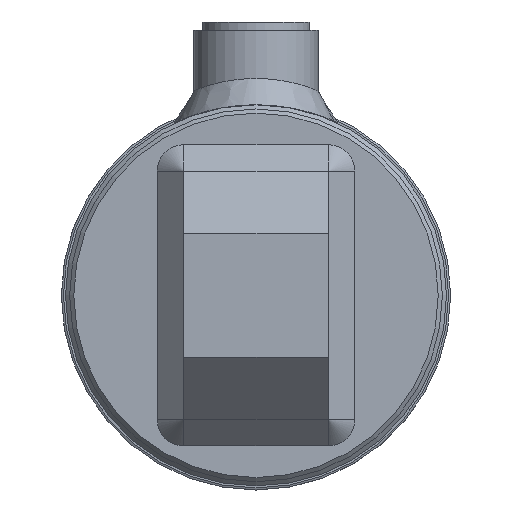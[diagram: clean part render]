
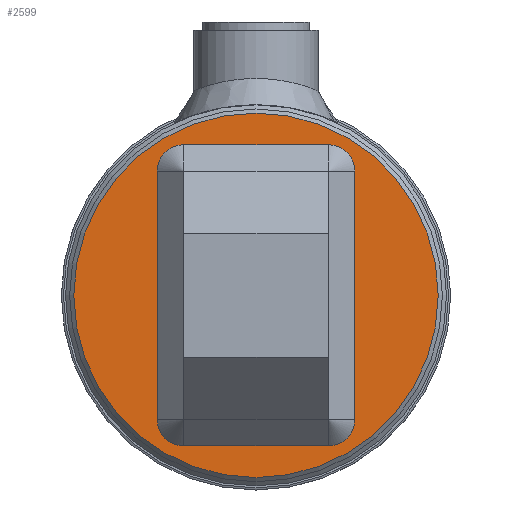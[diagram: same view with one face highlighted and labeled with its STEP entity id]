
A CAD part, left-side view. The second image highlights one B-rep face of the part: STEP entity #2599.
In plain terms, the highlighted planar face has unit normal (-1, 0, 0).
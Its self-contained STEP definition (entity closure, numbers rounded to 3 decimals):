
#2599 = ADVANCED_FACE( '', ( #6456 ), #6457, .T. );
#6456 = FACE_OUTER_BOUND( '', #8168, .T. );
#6457 = PLANE( '', #8169 );
#8168 = EDGE_LOOP( '', ( #8901 ) );
#8169 = AXIS2_PLACEMENT_3D( '', #8902, #8903, #8904 );
#8901 = ORIENTED_EDGE( '', *, *, #10030, .T. );
#8902 = CARTESIAN_POINT( '', ( -12., 0., 0. ) );
#8903 = DIRECTION( '', ( -1., 0., 0. ) );
#8904 = DIRECTION( '', ( 0., -1., 0. ) );
#10030 = EDGE_CURVE( '', #12211, #12211, #12212, .T. );
#12211 = VERTEX_POINT( '', #12970 );
#12212 = CIRCLE( '', #12971, 44. );
#12970 = CARTESIAN_POINT( '', ( -12., -44., 0. ) );
#12971 = AXIS2_PLACEMENT_3D( '', #13154, #13155, #13156 );
#13154 = CARTESIAN_POINT( '', ( -12., 0., 0. ) );
#13155 = DIRECTION( '', ( -1., 0., 0. ) );
#13156 = DIRECTION( '', ( 0., -1., 0. ) );
